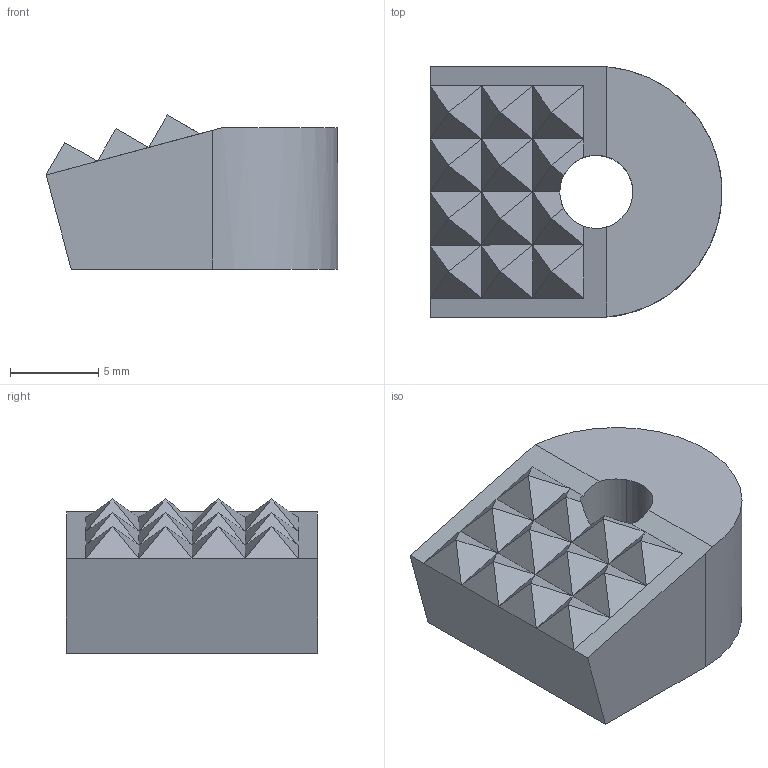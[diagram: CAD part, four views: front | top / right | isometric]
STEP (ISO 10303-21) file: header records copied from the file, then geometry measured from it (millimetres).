
FILE_DESCRIPTION(('CATIA V5 STEP'),'2;1');
FILE_NAME('\\Kjf-102\KJF_TC\Hydraulic_Clamp\Standard\TOGGLE PAD\CP-12\CP-12_-.stp','2020-03-23T08:23:13+00:00',('none'),('none'),'CATIA Version 5 Release 19 SP 6 (IN-10)','CATIA V5 STEP AP214','none');
FILE_SCHEMA(('AUTOMOTIVE_DESIGN { 1 0 10303 214 1 1 1 1 }'));
Length unit declared in the file: millimetre
Products named in the file (1): CP-12_-
Bounding box: 16.5 x 14.2 x 8.71 mm (x, y, z)
Volume: 1382.5 mm3; surface area: 910.9 mm2
Topology: 1 solids, 1 shells, 61 faces, 115 edges, 56 vertices
Faces by surface type: plane 56, cylinder 5
Entity records: 1282 total; most frequent: ORIENTED_EDGE 230, CARTESIAN_POINT 227, DIRECTION 154, EDGE_CURVE 115, VECTOR 96, LINE 96, EDGE_LOOP 63, ADVANCED_FACE 61
